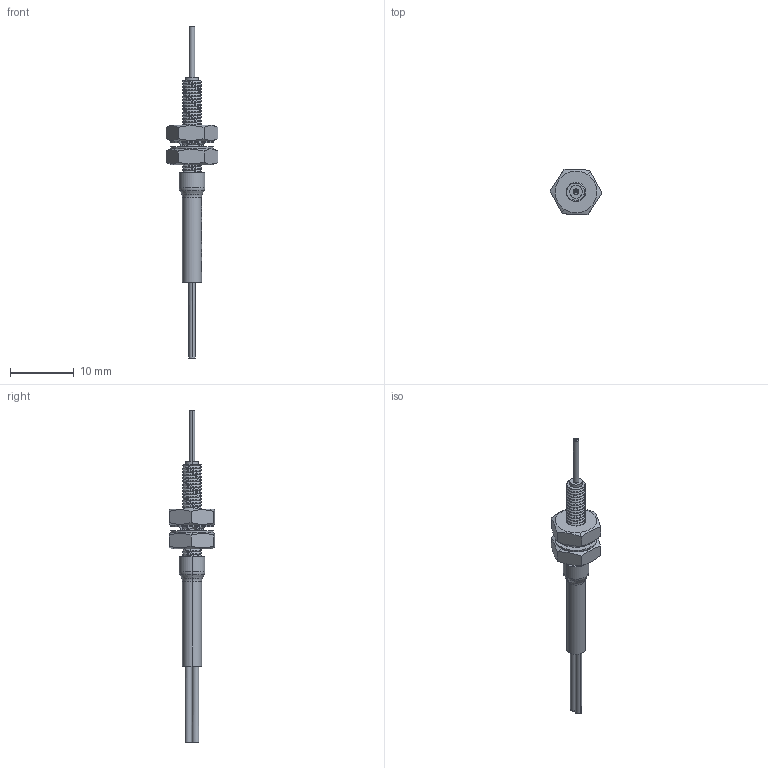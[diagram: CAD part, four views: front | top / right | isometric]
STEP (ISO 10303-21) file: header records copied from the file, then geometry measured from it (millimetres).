
FILE_DESCRIPTION (( 'STEP AP203' ), '1' );
FILE_NAME ('PD-E32.STEP', '2016-06-30T01:22:34', ( '' ), ( '' ), 'SwSTEP 2.0', 'SolidWorks 2013', '' );
FILE_SCHEMA (( 'CONFIG_CONTROL_DESIGN' ));
Length unit declared in the file: millimetre
Products named in the file (1): PD-E32
Bounding box: 8.08 x 7.15 x 52.01 mm (x, y, z)
Volume: 402 mm3; surface area: 1050.2 mm2
Topology: 6 solids, 6 shells, 430 faces, 1180 edges, 776 vertices
Faces by surface type: plane 252, cylinder 129, bspline 29, cone 12, torus 8
Entity records: 18433 total; most frequent: CARTESIAN_POINT 8110, ORIENTED_EDGE 2360, DIRECTION 1884, EDGE_CURVE 1180, VERTEX_POINT 776, LINE 692, VECTOR 692, AXIS2_PLACEMENT_3D 596
